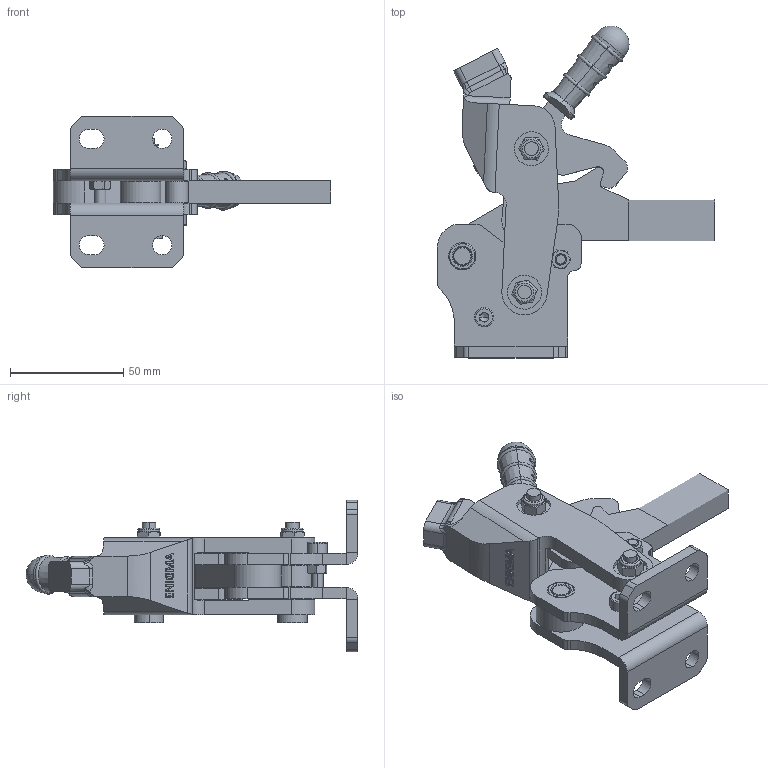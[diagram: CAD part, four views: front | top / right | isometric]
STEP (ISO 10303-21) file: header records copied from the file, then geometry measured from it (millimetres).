
FILE_DESCRIPTION (( 'STEP AP214' ), '1' );
FILE_NAME ('1523_Y.STEP', '2020-07-23T08:52:09', ( '' ), ( '' ), 'SwSTEP 2.0', 'SolidWorks 2019', '' );
FILE_SCHEMA (( 'AUTOMOTIVE_DESIGN' ));
Length unit declared in the file: millimetre
Products named in the file (17): 1533_cap5x10_on paralel burc; 1563_baský kolu; C45 Tutamak; socket head cap screw 4762_din_EN ISO 4762 M5 x 25 - 22N; 1533_cap8x18_ara mesafe burcu; M6 fiberli Somun; M5 Somun; 1563_Y_govde; G39x6x8x30; Burc_1503_12x8x5; 1523_Y; 1533_dovme mafsal; 1533_mafsal; 1563_kilit mandal; socket head cap screw 4762_din_EN ISO 4762 M5 x 20 - 20N; 1533_Cap8x20 Týrtýllý Pim; Aynalama1563_Y_govde
Assembly tree (27 placements, depth 2):
  1523_Y
    1563_Y_govde
    1533_mafsal  x2
    1533_dovme mafsal
    G39x6x8x30  x2
    M6 fiberli Somun  x2
    1533_Cap8x20 Týrtýllý Pim  x2
    1533_cap8x18_ara mesafe burcu
    Burc_1503_12x8x5  x7
    1563_baský kolu
    M5 Somun  x2
    socket head cap screw 4762_din_EN ISO 4762 M5 x 20 - 20N
    1563_kilit mandal
    C45 Tutamak
    socket head cap screw 4762_din_EN ISO 4762 M5 x 25 - 22N
    1533_cap5x10_on paralel burc
    Aynalama1563_Y_govde
Bounding box: 122.5 x 146.66 x 67 mm (x, y, z)
Volume: 147780.2 mm3; surface area: 68213.6 mm2
Topology: 27 solids, 27 shells, 1750 faces, 4522 edges, 2944 vertices
Faces by surface type: plane 1035, cylinder 272, bspline 267, cone 132, torus 42, sphere 2
Entity records: 50720 total; most frequent: CARTESIAN_POINT 19577, ORIENTED_EDGE 5808, DIRECTION 4582, EDGE_CURVE 2904, VERTEX_POINT 1893, VECTOR 1650, LINE 1650, AXIS2_PLACEMENT_3D 1466
